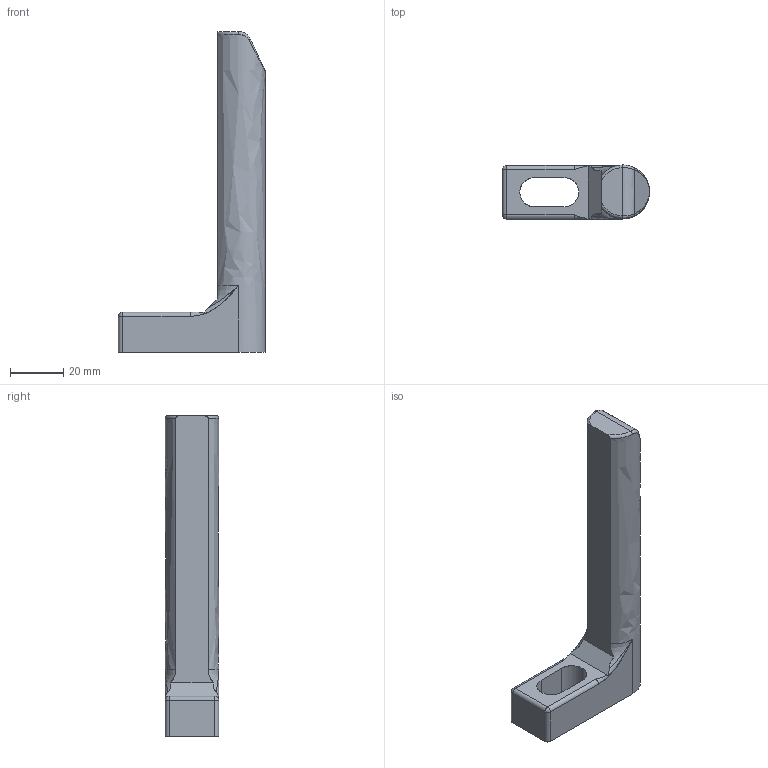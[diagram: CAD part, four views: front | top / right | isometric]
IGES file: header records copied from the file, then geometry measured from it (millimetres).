
Start section: START RECORD GO HERE.
Global section: file name: 704-5.igs; native system: DASSAULT SYSTEMES CATIA V5 R20 - www.3ds.com; preprocessor: CATIA Version 5 Release 20 ; author: Utente; organization: NB04-ASUS; date: 20201129.132548; units: millimetre
Bounding box: 55 x 20 x 120 mm (x, y, z)
Surface area: 10914.4 mm2 (no closed solid volume)
Topology: 0 solids, 0 shells, 35 faces, 178 edges, 174 vertices
Faces by surface type: revolution 18, plane 11, bspline 6
